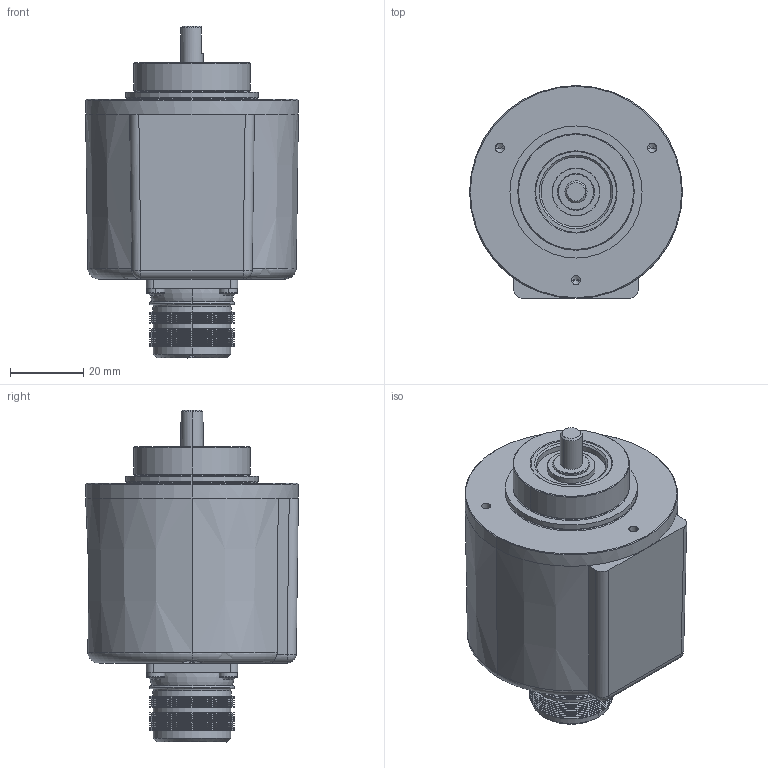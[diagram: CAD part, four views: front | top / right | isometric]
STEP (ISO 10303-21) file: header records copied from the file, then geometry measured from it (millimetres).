
FILE_DESCRIPTION (( 'STEP AP203' ), '1' );
FILE_NAME ('E58CM.SSI.115##.STEP', '2023-03-27T14:45:49', ( '' ), ( '' ), 'SwSTEP 2.0', 'SolidWorks 2021', '' );
FILE_SCHEMA (( 'CONFIG_CONTROL_DESIGN' ));
Length unit declared in the file: millimetre
Products named in the file (1): E58CM.SSI.115##
Bounding box: 58 x 58 x 90.5 mm (x, y, z)
Volume: 141698.8 mm3; surface area: 20175.9 mm2
Topology: 2 solids, 12 shells, 622 faces, 1440 edges, 865 vertices
Faces by surface type: plane 277, cone 149, cylinder 141, torus 41, sphere 14
Entity records: 17690 total; most frequent: CARTESIAN_POINT 3282, DIRECTION 3235, ORIENTED_EDGE 2844, EDGE_CURVE 1422, AXIS2_PLACEMENT_3D 1284, VERTEX_POINT 865, EDGE_LOOP 677, LINE 667
